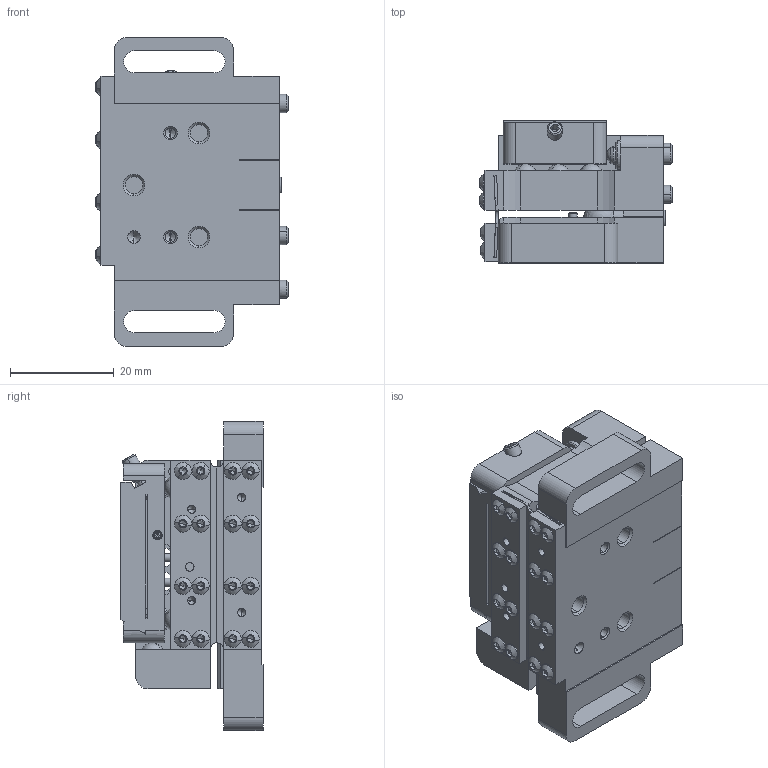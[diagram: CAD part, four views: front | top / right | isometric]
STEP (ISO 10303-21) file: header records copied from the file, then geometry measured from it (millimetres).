
FILE_DESCRIPTION((''),'2;1');
FILE_NAME('9031-M','2020-07-09T04:52:16',('Administrator'),(''),'CREO PARAMETRIC BY PTC INC, 2019292','CREO PARAMETRIC BY PTC INC, 2019292','');
FILE_SCHEMA(('AUTOMOTIVE_DESIGN { 1 0 10303 214 1 1 1 1 }'));
Products named in the file (1): 9031-M
Bounding box: 37.08 x 27.37 x 59.47 mm (x, y, z)
Volume: 30765.5 mm3; surface area: 22870.7 mm2
Topology: 6 solids, 34 shells, 2467 faces, 6409 edges, 4024 vertices
Faces by surface type: plane 1256, cylinder 537, cone 409, extrusion 143, torus 50, bspline 44, sphere 28
Entity records: 137260 total; most frequent: CARTESIAN_POINT 58705, ORIENTED_EDGE 12490, DIRECTION 12053, PRESENTATION_STYLE_ASSIGNMENT 6252, STYLED_ITEM 6252, CURVE_STYLE 6246, EDGE_CURVE 6245, AXIS2_PLACEMENT_3D 4120
